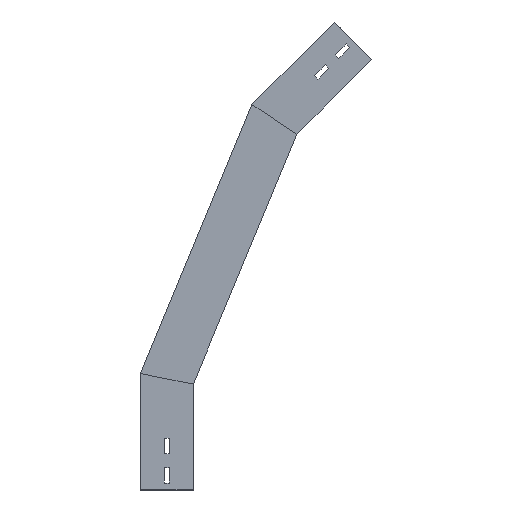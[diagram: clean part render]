
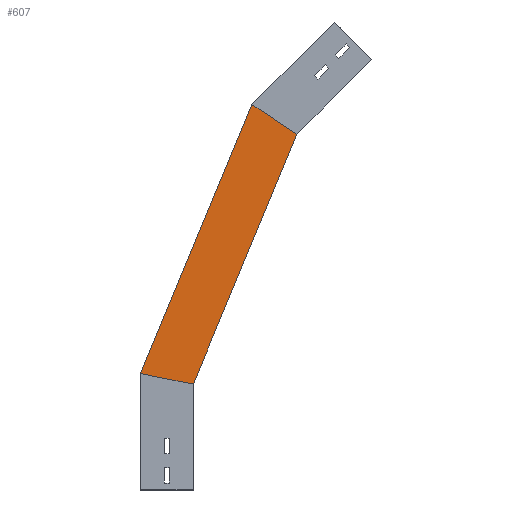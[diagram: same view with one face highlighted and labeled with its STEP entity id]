
A CAD part, left-side view. The second image highlights one B-rep face of the part: STEP entity #607.
In plain terms, the highlighted planar face has unit normal (-1, 0, 0) as drawn and (1, 0, 0) by its records, which use the part's own axes.
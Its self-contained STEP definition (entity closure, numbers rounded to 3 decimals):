
#101 = VERTEX_POINT ( 'NONE', #1407 ) ;
#228 = CARTESIAN_POINT ( 'NONE',  ( 0., -28.701, 144.291 ) ) ;
#236 = VERTEX_POINT ( 'NONE', #1492 ) ;
#307 = DIRECTION ( 'NONE',  ( 1., 0., 0. ) ) ;
#416 = ORIENTED_EDGE ( 'NONE', *, *, #1094, .T. ) ;
#423 = EDGE_CURVE ( 'NONE', #1304, #669, #1322, .T. ) ;
#438 = FACE_OUTER_BOUND ( 'NONE', #1376, .T. ) ;
#588 = LINE ( 'NONE', #1163, #1285 ) ;
#607 = ADVANCED_FACE ( 'NONE', ( #438 ), #773, .T. ) ;
#669 = VERTEX_POINT ( 'NONE', #1165 ) ;
#683 = AXIS2_PLACEMENT_3D ( 'NONE', #1003, #307, #781 ) ;
#692 = VECTOR ( 'NONE', #699, 1000. ) ;
#699 = DIRECTION ( 'NONE',  ( 0., -0.981, -0.195 ) ) ;
#731 = DIRECTION ( 'NONE',  ( 0., -0.383, 0.924 ) ) ;
#773 = PLANE ( 'NONE',  #683 ) ;
#781 = DIRECTION ( 'NONE',  ( 0., 0., -1. ) ) ;
#802 = VECTOR ( 'NONE', #731, 1000. ) ;
#875 = ORIENTED_EDGE ( 'NONE', *, *, #423, .F. ) ;
#936 = EDGE_CURVE ( 'NONE', #236, #101, #1369, .T. ) ;
#1003 = CARTESIAN_POINT ( 'NONE',  ( 0., 6.318, 134.746 ) ) ;
#1094 = EDGE_CURVE ( 'NONE', #101, #669, #588, .T. ) ;
#1161 = EDGE_CURVE ( 'NONE', #236, #1304, #1169, .T. ) ;
#1163 = CARTESIAN_POINT ( 'NONE',  ( 0., -211.373, 460.544 ) ) ;
#1165 = CARTESIAN_POINT ( 'NONE',  ( 0., -146.568, 503.846 ) ) ;
#1169 = LINE ( 'NONE', #228, #692 ) ;
#1204 = VECTOR ( 'NONE', #1363, 1000. ) ;
#1212 = CARTESIAN_POINT ( 'NONE',  ( 0., 6.318, 134.746 ) ) ;
#1224 = CARTESIAN_POINT ( 'NONE',  ( 0., 75.609, 163.448 ) ) ;
#1273 = DIRECTION ( 'NONE',  ( 0., -0.831, -0.556 ) ) ;
#1278 = ORIENTED_EDGE ( 'NONE', *, *, #1161, .F. ) ;
#1285 = VECTOR ( 'NONE', #1273, 1000. ) ;
#1304 = VERTEX_POINT ( 'NONE', #1326 ) ;
#1322 = LINE ( 'NONE', #1212, #802 ) ;
#1326 = CARTESIAN_POINT ( 'NONE',  ( 0., 0., 150. ) ) ;
#1363 = DIRECTION ( 'NONE',  ( 0., -0.383, 0.924 ) ) ;
#1369 = LINE ( 'NONE', #1224, #1204 ) ;
#1376 = EDGE_LOOP ( 'NONE', ( #1389, #416, #875, #1278 ) ) ;
#1389 = ORIENTED_EDGE ( 'NONE', *, *, #936, .T. ) ;
#1407 = CARTESIAN_POINT ( 'NONE',  ( 0., -82.986, 546.33 ) ) ;
#1492 = CARTESIAN_POINT ( 'NONE',  ( 0., 75., 164.918 ) ) ;
